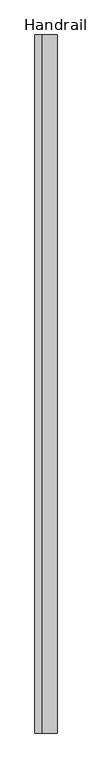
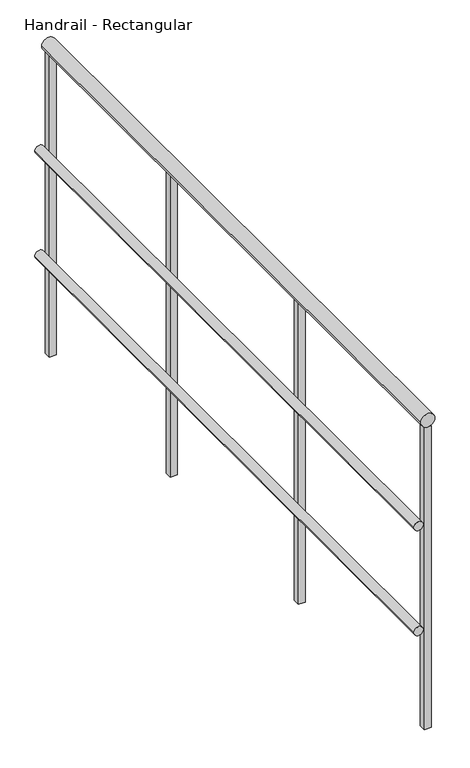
"""IFC4 building model written with IfcOpenShell, lengths in millimetres: railing geometry, Handrail - Rectangular."""

from ifc_helpers import new_model, si_unit, point, frame, frame_2d, origin, place, context, project, spatial, polyline, circle_curve, trimmed, segment, composite_curve, outline, extrude, source, transform, mapped, element, save


def handrail_rectangular_2b0f6e2a(model_context):
    return source(origin(), model_context, "Body", "SweptSolid", [
        extrude(outline(composite_curve([segment(trimmed(circle_curve(frame_2d((3644.9, -32192.8839563)), 12.7), [point((3644.9, -32205.5839563))], [point((3644.9, -32180.1839563))], False, "CARTESIAN"), True, "CONTINUOUS"), segment(trimmed(circle_curve(frame_2d((3644.9, -32192.8839563)), 12.7), [point((3644.9, -32180.1839563))], [point((3644.9, -32205.5839563))], False, "CARTESIAN"), True, "CONTINUOUS")], self_intersect=False)), frame((0.0, -33825.9683133, 0.0), z_axis=(0.0, 1.0, 0.0), x_axis=(0.0, 0.0, 1.0)), (0.0, 0.0, 1.0), 1803.4),
        extrude(outline(composite_curve([segment(trimmed(circle_curve(frame_2d((3340.1, -32192.8839563)), 12.7), [point((3340.1, -32205.5839563))], [point((3340.1, -32180.1839563))], False, "CARTESIAN"), True, "CONTINUOUS"), segment(trimmed(circle_curve(frame_2d((3340.1, -32192.8839563)), 12.7), [point((3340.1, -32180.1839563))], [point((3340.1, -32205.5839563))], False, "CARTESIAN"), True, "CONTINUOUS")], self_intersect=False)), frame((0.0, -33825.9683133, 0.0), z_axis=(0.0, 1.0, 0.0), x_axis=(0.0, 0.0, 1.0)), (0.0, 0.0, 1.0), 1803.4),
        extrude(outline(composite_curve([segment(trimmed(circle_curve(frame_2d((3943.35, -32167.4839563)), 19.05), [point((3943.35, -32186.5339563))], [point((3943.35, -32148.4339563))], False, "CARTESIAN"), True, "CONTINUOUS"), segment(trimmed(circle_curve(frame_2d((3943.35, -32167.4839563)), 19.05), [point((3943.35, -32148.4339563))], [point((3943.35, -32186.5339563))], False, "CARTESIAN"), True, "CONTINUOUS")], self_intersect=False)), frame((0.0, -33825.9683133, 0.0), z_axis=(0.0, 1.0, 0.0), x_axis=(0.0, 0.0, 1.0)), (0.0, 0.0, 1.0), 1803.4),
        extrude(outline(polyline([(-32157.9589563, -32616.2933133), (-32177.0089563, -32616.2933133), (-32177.0089563, -32597.2433133), (-32157.9589563, -32597.2433133), (-32157.9589563, -32616.2933133)])), frame((0.0, 0.0, 3048.0), z_axis=(0.0, 0.0, 1.0), x_axis=(1.0, 0.0, 0.0)), (0.0, 0.0, 1.0), 876.3),
        extrude(outline(polyline([(-32157.9589563, -33225.8933133), (-32177.0089563, -33225.8933133), (-32177.0089563, -33206.8433133), (-32157.9589563, -33206.8433133), (-32157.9589563, -33225.8933133)])), frame((0.0, 0.0, 3048.0), z_axis=(0.0, 0.0, 1.0), x_axis=(1.0, 0.0, 0.0)), (0.0, 0.0, 1.0), 876.3),
        extrude(outline(polyline([(-32157.9589563, -32041.6183133), (-32177.0089563, -32041.6183133), (-32177.0089563, -32022.5683133), (-32157.9589563, -32022.5683133), (-32157.9589563, -32041.6183133)])), frame((0.0, 0.0, 3048.0), z_axis=(0.0, 0.0, 1.0), x_axis=(1.0, 0.0, 0.0)), (0.0, 0.0, 1.0), 876.3),
        extrude(outline(polyline([(-32157.9589563, -33825.9683133), (-32177.0089563, -33825.9683133), (-32177.0089563, -33806.9183133), (-32157.9589563, -33806.9183133), (-32157.9589563, -33825.9683133)])), frame((0.0, 0.0, 3048.0), z_axis=(0.0, 0.0, 1.0), x_axis=(1.0, 0.0, 0.0)), (0.0, 0.0, 1.0), 876.3),
    ])


if __name__ == "__main__":
    model = new_model("IFC4")
    model_context = context("Model", 3, world=origin())
    ifc_project = project(units=[si_unit("LENGTHUNIT", "METRE", prefix="MILLI")], contexts=[model_context])
    site = spatial("IfcSite", under=ifc_project)
    building = spatial("IfcBuilding", under=site)
    placement = place(None, origin())
    handrail_rectangular_shape = handrail_rectangular_2b0f6e2a(model_context)
    element("IfcRailing", 1, ObjectType="Handrail - Rectangular", at=placement, inside=building, context=model_context, shape_type="MappedRepresentation", body=[
        mapped(handrail_rectangular_shape, transform((0.0, 0.0, 0.0), x_axis=(1.0, 0.0, 0.0), y_axis=(0.0, 1.0, 0.0), z_axis=(0.0, 0.0, 1.0))),
    ])
    save(model, "model.ifc")
